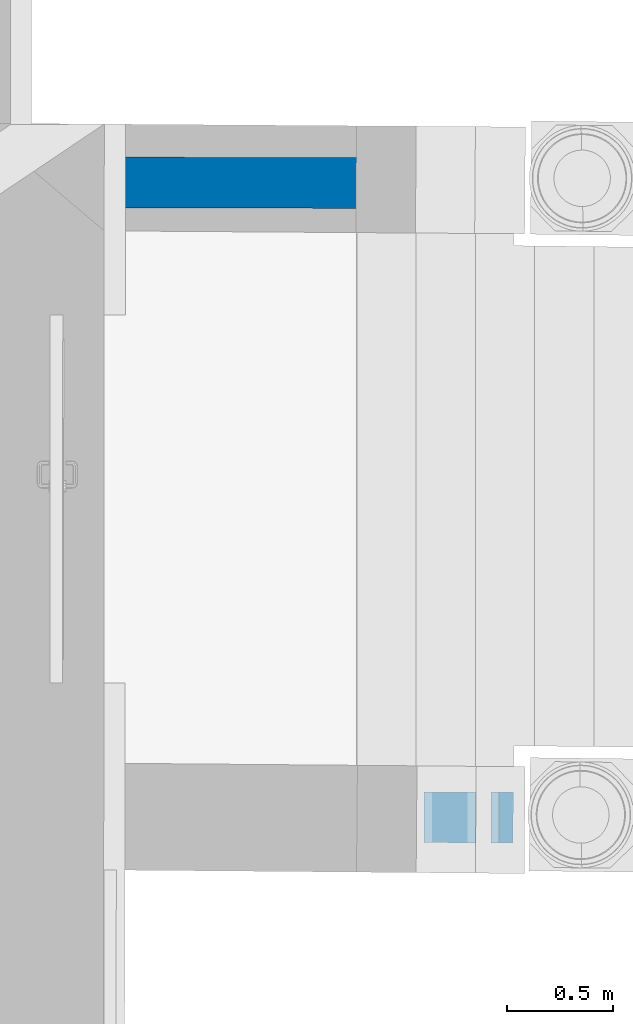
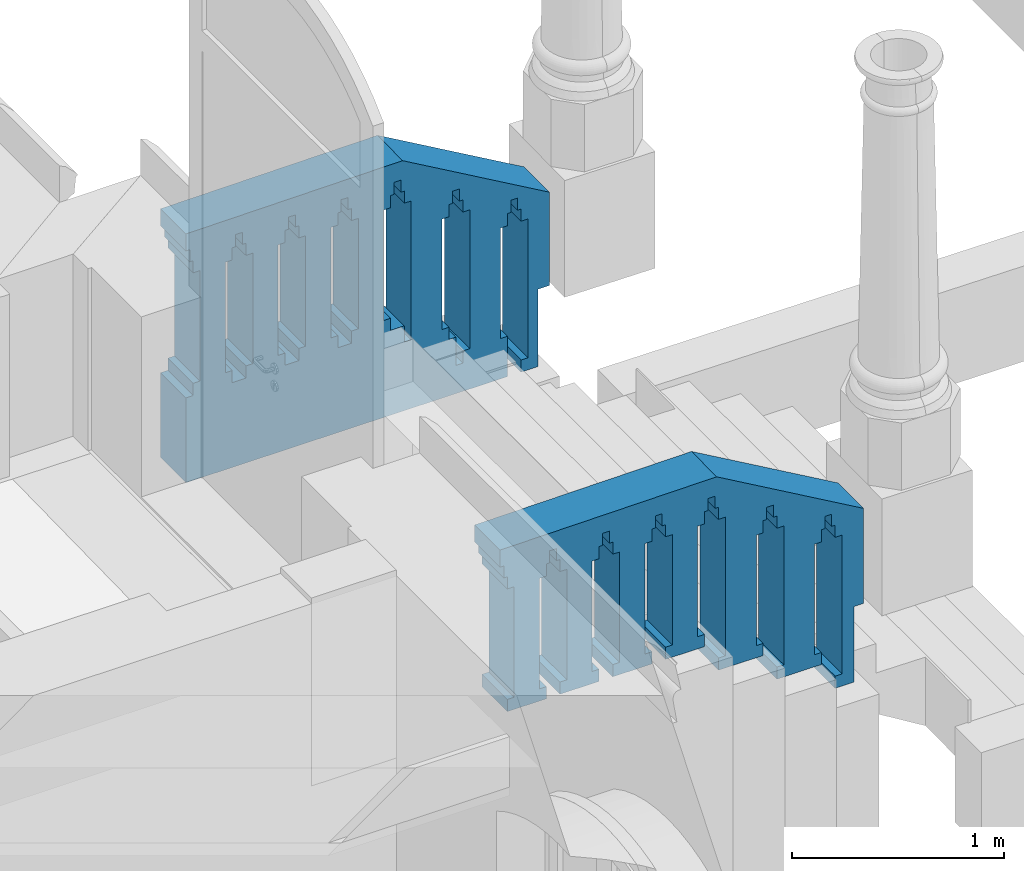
# One storey, part 107 of 196: 2 walls.
"""IFC2X3 building model written with IfcOpenShell, lengths in metres."""

from ifc_helpers import new_model, entity, si_unit, converted_unit, derived_unit, money_unit, direction, frame, origin_with_axes, place, context, subcontext, project, spatial, polyline, outline, extrude, boolean, faceted_brep, material, type_object, element, save


model = new_model("IFC2X3")

# Units and contexts
model_context = context("Model", 3, precision=1e-05, world=origin_with_axes(), true_north=direction((0.0, 1.0)))
body_context = subcontext(model_context, "Body", "Model", "MODEL_VIEW")
ifc_project = project(units=[si_unit("LENGTHUNIT", "METRE"), si_unit("AREAUNIT", "SQUARE_METRE"), si_unit("VOLUMEUNIT", "CUBIC_METRE"), converted_unit("PLANEANGLEUNIT", "DEGREE", entity("IfcPlaneAngleMeasure", 0.0174532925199), si_unit("PLANEANGLEUNIT", "RADIAN"), dimensions=[0, 0, 0, 0, 0, 0, 0]), money_unit("EUR"), converted_unit("TIMEUNIT", "Year", entity("IfcTimeMeasure", 31556926.0), si_unit("TIMEUNIT", "SECOND"), dimensions=[0, 0, 1, 0, 0, 0, 0]), si_unit("MASSUNIT", "GRAM", prefix="KILO"), si_unit("THERMODYNAMICTEMPERATUREUNIT", "DEGREE_CELSIUS"), si_unit("LUMINOUSINTENSITYUNIT", "LUMEN"), si_unit("ENERGYUNIT", "JOULE", prefix="MEGA"), derived_unit("THERMALCONDUCTANCEUNIT", [(si_unit("POWERUNIT", "WATT"), 1), (si_unit("LENGTHUNIT", "METRE"), -1), (si_unit("THERMODYNAMICTEMPERATUREUNIT", "KELVIN"), -1)]), derived_unit("SPECIFICHEATCAPACITYUNIT", [(si_unit("ENERGYUNIT", "JOULE"), 1), (si_unit("MASSUNIT", "GRAM", prefix="KILO"), -1), (si_unit("THERMODYNAMICTEMPERATUREUNIT", "KELVIN"), -1)]), derived_unit("MASSDENSITYUNIT", [(si_unit("MASSUNIT", "GRAM", prefix="KILO"), 1), (si_unit("VOLUMEUNIT", "CUBIC_METRE"), -1)])], contexts=[model_context])

# Site, building, storey
site_placement = place(None, origin_with_axes())
site = spatial("IfcSite", under=ifc_project, at=site_placement, Name="Gelände", CompositionType="ELEMENT")
building_placement = place(site_placement, origin_with_axes())
building = spatial("IfcBuilding", under=site, at=building_placement, Name="Gebäude", CompositionType="ELEMENT")
storey_placement = place(building_placement, frame((0.0, 0.0, -3.0), z_axis=(0.0, 0.0, 1.0), x_axis=(1.0, 0.0, 0.0)))
storey = spatial("IfcBuildingStorey", under=building, at=storey_placement, Name="KELLERGESCHOSS", CompositionType="ELEMENT", Elevation=-3.0)

# Walls
ifc_material = material(Name="05_ALLGEMEIN - TRAGENDE BAUTEILE")
wall_type = type_object("IfcWallType", Name="05_ALLGEMEIN - TRAGENDE BAUTEILE 240", PredefinedType="ELEMENTEDWALL")
wall_1_placement = place(storey_placement, frame((34.102527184, 16.6497051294, 1.251), z_axis=(0.0, 0.0, 1.0), x_axis=(-0.999999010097, 0.00140705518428, 0.0)))
element("IfcWall", 1, at=wall_1_placement, inside=storey, type_object=wall_type, material=ifc_material, Name="Wand-044", ObjectType="ELEMENTEDWALL", context=body_context, shape_type="CSG", body=[
    boolean("DIFFERENCE", boolean("DIFFERENCE", boolean("DIFFERENCE", extrude(outline(polyline([(0.0, 0.0), (1.98, 0.0), (1.98, 0.24), (0.0, 0.24), (0.0, 0.0)])), origin_with_axes(), (0.0, 0.0, 1.0), 2.73605348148), faceted_brep([(0.154338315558, 0.0, 0.939892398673), (0.154338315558, 0.0, 0.869892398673), (0.116838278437, 0.0, 0.869892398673), (0.116838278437, 0.0, 0.07), (0.154338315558, 0.0, 0.07), (0.154338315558, 0.0, 0.0), (1.98, 0.0, 0.0), (1.98, 0.0, 1.33589239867), (1.95938364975, 0.0, 1.33589239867), (1.95938364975, 0.0, 1.26589239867), (1.94063363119, 0.0, 1.26589239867), (1.94063363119, 0.0, 1.19589239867), (1.90313359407, 0.0, 1.19589239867), (1.90313359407, 0.0, 0.559), (1.94063363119, 0.0, 0.559), (1.94063363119, 0.0, 0.489), (1.72812856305, 0.0, 0.489), (1.72812856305, 0.0, 0.559), (1.76562860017, 0.0, 0.559), (1.76562860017, 0.0, 1.19589239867), (1.72812856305, 0.0, 1.19589239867), (1.72812856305, 0.0, 1.26589239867), (1.70937854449, 0.0, 1.26589239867), (1.70937854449, 0.0, 1.33589239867), (1.67187850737, 0.0, 1.33589239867), (1.67187850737, 0.0, 1.26589239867), (1.65312848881, 0.0, 1.26589239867), (1.65312848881, 0.0, 1.19589239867), (1.61562845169, 0.0, 1.19589239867), (1.61562845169, 0.0, 0.559), (1.65312848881, 0.0, 0.559), (1.65312848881, 0.0, 0.489), (1.44062342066, 0.0, 0.489), (1.44062342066, 0.0, 0.559), (1.47812345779, 0.0, 0.559), (1.47812345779, 0.0, 1.19589239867), (1.44062342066, 0.0, 1.19589239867), (1.44062342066, 0.0, 1.26589239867), (1.4218734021, 0.0, 1.26589239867), (1.4218734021, 0.0, 1.33589239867), (1.38437336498, 0.0, 1.33589239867), (1.38437336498, 0.0, 1.26589239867), (1.36562334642, 0.0, 1.26589239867), (1.36562334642, 0.0, 1.19589239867), (1.3281233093, 0.0, 1.19589239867), (1.3281233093, 0.0, 0.559), (1.36562334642, 0.0, 0.559), (1.36562334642, 0.0, 0.489), (1.15311827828, 0.0, 0.489), (1.15311827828, 0.0, 0.559), (1.1906183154, 0.0, 0.559), (1.1906183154, 0.0, 1.19589239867), (1.15311827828, 0.0, 1.19589239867), (1.15311827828, 0.0, 1.26589239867), (1.13436825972, 0.0, 1.26589239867), (1.13436825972, 0.0, 1.33589239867), (1.0968682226, 0.0, 1.33589239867), (1.0968682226, 0.0, 1.26589239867), (1.07811820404, 0.0, 1.26589239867), (1.07811820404, 0.0, 1.19589239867), (1.04061816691, 0.0, 1.19589239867), (1.04061816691, 0.0, 0.559), (1.07811820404, 0.0, 0.559), (1.07811820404, 0.0, 0.489), (0.865613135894, 0.0, 0.489), (0.865613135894, 0.0, 0.559), (0.903113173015, 0.0, 0.559), (0.903113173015, 0.0, 1.19589239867), (0.865613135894, 0.0, 1.19589239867), (0.865613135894, 0.0, 1.26589239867), (0.846863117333, 0.0, 1.26589239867), (0.846863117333, 0.0, 1.33589239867), (0.809363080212, 0.0, 1.33589239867), (0.809363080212, 0.0, 1.26589239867), (0.790613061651, 0.0, 1.26589239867), (0.790613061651, 0.0, 1.19589239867), (0.75311302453, 0.0, 1.19589239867), (0.75311302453, 0.0, 0.396), (0.787391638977, 0.0, 0.396), (0.787391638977, 0.0, 0.326), (0.54653174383, 0.0, 0.326), (0.54653174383, 0.0, 0.396), (0.584031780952, 0.0, 0.396), (0.584031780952, 0.0, 1.03289239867), (0.54653174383, 0.0, 1.03289239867), (0.54653174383, 0.0, 1.10289239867), (0.527781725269, 0.0, 1.10289239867), (0.527781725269, 0.0, 1.17289239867), (0.490281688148, 0.0, 1.17289239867), (0.490281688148, 0.0, 1.10289239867), (0.471531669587, 0.0, 1.10289239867), (0.471531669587, 0.0, 1.03289239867), (0.434031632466, 0.0, 1.03289239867), (0.434031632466, 0.0, 0.233), (0.471531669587, 0.0, 0.233), (0.471531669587, 0.0, 0.163), (0.229338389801, 0.0, 0.163), (0.229338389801, 0.0, 0.233), (0.266838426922, 0.0, 0.233), (0.266838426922, 0.0, 0.869892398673), (0.229338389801, 0.0, 0.869892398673), (0.229338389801, 0.0, 0.939892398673), (0.21058837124, 0.0, 0.939892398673), (0.21058837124, 0.0, 1.00989239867), (0.173088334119, 0.0, 1.00989239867), (0.173088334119, 0.0, 0.939892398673), (0.15400062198, 0.24, 0.939892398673), (0.15400062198, 0.24, 0.869892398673), (0.116500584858, 0.24, 0.869892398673), (0.116500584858, 0.24, 0.07), (0.15400062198, 0.24, 0.07), (0.15400062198, 0.24, 0.0), (1.98, 0.24, 0.0), (1.98, 0.24, 1.33589239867), (1.95904595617, 0.24, 1.33589239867), (1.95904595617, 0.24, 1.26589239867), (1.94029593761, 0.24, 1.26589239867), (1.94029593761, 0.24, 1.19589239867), (1.90279590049, 0.24, 1.19589239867), (1.90279590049, 0.24, 0.559), (1.94029593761, 0.24, 0.559), (1.94029593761, 0.24, 0.489), (1.72779086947, 0.24, 0.489), (1.72779086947, 0.24, 0.559), (1.76529090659, 0.24, 0.559), (1.76529090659, 0.24, 1.19589239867), (1.72779086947, 0.24, 1.19589239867), (1.72779086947, 0.24, 1.26589239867), (1.70904085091, 0.24, 1.26589239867), (1.70904085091, 0.24, 1.33589239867), (1.67154081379, 0.24, 1.33589239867), (1.67154081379, 0.24, 1.26589239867), (1.65279079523, 0.24, 1.26589239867), (1.65279079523, 0.24, 1.19589239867), (1.61529075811, 0.24, 1.19589239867), (1.61529075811, 0.24, 0.559), (1.65279079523, 0.24, 0.559), (1.65279079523, 0.24, 0.489), (1.44028572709, 0.24, 0.489), (1.44028572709, 0.24, 0.559), (1.47778576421, 0.24, 0.559), (1.47778576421, 0.24, 1.19589239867), (1.44028572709, 0.24, 1.19589239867), (1.44028572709, 0.24, 1.26589239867), (1.42153570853, 0.24, 1.26589239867), (1.42153570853, 0.24, 1.33589239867), (1.3840356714, 0.24, 1.33589239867), (1.3840356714, 0.24, 1.26589239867), (1.36528565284, 0.24, 1.26589239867), (1.36528565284, 0.24, 1.19589239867), (1.32778561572, 0.24, 1.19589239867), (1.32778561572, 0.24, 0.559), (1.36528565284, 0.24, 0.559), (1.36528565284, 0.24, 0.489), (1.1527805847, 0.24, 0.489), (1.1527805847, 0.24, 0.559), (1.19028062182, 0.24, 0.559), (1.19028062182, 0.24, 1.19589239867), (1.1527805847, 0.24, 1.19589239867), (1.1527805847, 0.24, 1.26589239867), (1.13403056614, 0.24, 1.26589239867), (1.13403056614, 0.24, 1.33589239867), (1.09653052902, 0.24, 1.33589239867), (1.09653052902, 0.24, 1.26589239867), (1.07778051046, 0.24, 1.26589239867), (1.07778051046, 0.24, 1.19589239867), (1.04028047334, 0.24, 1.19589239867), (1.04028047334, 0.24, 0.559), (1.07778051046, 0.24, 0.559), (1.07778051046, 0.24, 0.489), (0.865275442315, 0.24, 0.489), (0.865275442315, 0.24, 0.559), (0.902775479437, 0.24, 0.559), (0.902775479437, 0.24, 1.19589239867), (0.865275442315, 0.24, 1.19589239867), (0.865275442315, 0.24, 1.26589239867), (0.846525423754, 0.24, 1.26589239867), (0.846525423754, 0.24, 1.33589239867), (0.809025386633, 0.24, 1.33589239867), (0.809025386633, 0.24, 1.26589239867), (0.790275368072, 0.24, 1.26589239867), (0.790275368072, 0.24, 1.19589239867), (0.752775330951, 0.24, 1.19589239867), (0.752775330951, 0.24, 0.396), (0.789092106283, 0.24, 0.396), (0.789092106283, 0.24, 0.326), (0.546194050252, 0.24, 0.326), (0.546194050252, 0.24, 0.396), (0.583694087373, 0.24, 0.396), (0.583694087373, 0.24, 1.03289239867), (0.546194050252, 0.24, 1.03289239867), (0.546194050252, 0.24, 1.10289239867), (0.527444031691, 0.24, 1.10289239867), (0.527444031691, 0.24, 1.17289239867), (0.48994399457, 0.24, 1.17289239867), (0.48994399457, 0.24, 1.10289239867), (0.471193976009, 0.24, 1.10289239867), (0.471193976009, 0.24, 1.03289239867), (0.433693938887, 0.24, 1.03289239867), (0.433693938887, 0.24, 0.233), (0.471193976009, 0.24, 0.233), (0.471193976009, 0.24, 0.163), (0.229000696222, 0.24, 0.163), (0.229000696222, 0.24, 0.233), (0.266500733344, 0.24, 0.233), (0.266500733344, 0.24, 0.869892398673), (0.229000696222, 0.24, 0.869892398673), (0.229000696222, 0.24, 0.939892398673), (0.210250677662, 0.24, 0.939892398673), (0.210250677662, 0.24, 1.00989239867), (0.17275064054, 0.24, 1.00989239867), (0.17275064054, 0.24, 0.939892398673)], [[[0, 1, 2, 3, 4, 5, 6, 7, 8, 9, 10, 11, 12, 13, 14, 15, 16, 17, 18, 19, 20, 21, 22, 23, 24, 25, 26, 27, 28, 29, 30, 31, 32, 33, 34, 35, 36, 37, 38, 39, 40, 41, 42, 43, 44, 45, 46, 47, 48, 49, 50, 51, 52, 53, 54, 55, 56, 57, 58, 59, 60, 61, 62, 63, 64, 65, 66, 67, 68, 69, 70, 71, 72, 73, 74, 75, 76, 77, 78, 79, 80, 81, 82, 83, 84, 85, 86, 87, 88, 89, 90, 91, 92, 93, 94, 95, 96, 97, 98, 99, 100, 101, 102, 103, 104, 105]], [[1, 0, 106, 107]], [[2, 1, 107, 108]], [[3, 2, 108, 109]], [[4, 3, 109, 110]], [[5, 4, 110, 111]], [[5, 111, 112, 6]], [[113, 7, 6, 112]], [[8, 7, 113, 114]], [[9, 8, 114, 115]], [[10, 9, 115, 116]], [[11, 10, 116, 117]], [[12, 11, 117, 118]], [[13, 12, 118, 119]], [[14, 13, 119, 120]], [[15, 14, 120, 121]], [[16, 15, 121, 122]], [[17, 16, 122, 123]], [[18, 17, 123, 124]], [[19, 18, 124, 125]], [[20, 19, 125, 126]], [[21, 20, 126, 127]], [[22, 21, 127, 128]], [[23, 22, 128, 129]], [[24, 23, 129, 130]], [[25, 24, 130, 131]], [[26, 25, 131, 132]], [[27, 26, 132, 133]], [[28, 27, 133, 134]], [[29, 28, 134, 135]], [[30, 29, 135, 136]], [[31, 30, 136, 137]], [[32, 31, 137, 138]], [[33, 32, 138, 139]], [[34, 33, 139, 140]], [[35, 34, 140, 141]], [[36, 35, 141, 142]], [[37, 36, 142, 143]], [[38, 37, 143, 144]], [[39, 38, 144, 145]], [[40, 39, 145, 146]], [[41, 40, 146, 147]], [[42, 41, 147, 148]], [[43, 42, 148, 149]], [[44, 43, 149, 150]], [[45, 44, 150, 151]], [[46, 45, 151, 152]], [[47, 46, 152, 153]], [[48, 47, 153, 154]], [[49, 48, 154, 155]], [[50, 49, 155, 156]], [[51, 50, 156, 157]], [[52, 51, 157, 158]], [[53, 52, 158, 159]], [[54, 53, 159, 160]], [[55, 54, 160, 161]], [[56, 55, 161, 162]], [[57, 56, 162, 163]], [[58, 57, 163, 164]], [[59, 58, 164, 165]], [[60, 59, 165, 166]], [[61, 60, 166, 167]], [[62, 61, 167, 168]], [[63, 62, 168, 169]], [[64, 63, 169, 170]], [[65, 64, 170, 171]], [[66, 65, 171, 172]], [[67, 66, 172, 173]], [[68, 67, 173, 174]], [[69, 68, 174, 175]], [[70, 69, 175, 176]], [[71, 70, 176, 177]], [[72, 71, 177, 178]], [[73, 72, 178, 179]], [[74, 73, 179, 180]], [[75, 74, 180, 181]], [[76, 75, 181, 182]], [[77, 76, 182, 183]], [[78, 77, 183, 184]], [[79, 78, 184, 185]], [[80, 79, 185, 186]], [[81, 80, 186, 187]], [[82, 81, 187, 188]], [[83, 82, 188, 189]], [[84, 83, 189, 190]], [[85, 84, 190, 191]], [[86, 85, 191, 192]], [[87, 86, 192, 193]], [[88, 87, 193, 194]], [[89, 88, 194, 195]], [[90, 89, 195, 196]], [[91, 90, 196, 197]], [[92, 91, 197, 198]], [[93, 92, 198, 199]], [[94, 93, 199, 200]], [[95, 94, 200, 201]], [[96, 95, 201, 202]], [[97, 96, 202, 203]], [[98, 97, 203, 204]], [[99, 98, 204, 205]], [[100, 99, 205, 206]], [[101, 100, 206, 207]], [[102, 101, 207, 208]], [[103, 102, 208, 209]], [[104, 103, 209, 210]], [[105, 104, 210, 211]], [[0, 105, 211, 106]], [[114, 113, 112, 111, 110, 109, 108, 107, 106, 211, 210, 209, 208, 207, 206, 205, 204, 203, 202, 201, 200, 199, 198, 197, 196, 195, 194, 193, 192, 191, 190, 189, 188, 187, 186, 185, 184, 183, 182, 181, 180, 179, 178, 177, 176, 175, 174, 173, 172, 171, 170, 169, 168, 167, 166, 165, 164, 163, 162, 161, 160, 159, 158, 157, 156, 155, 154, 153, 152, 151, 150, 149, 148, 147, 146, 145, 144, 143, 142, 141, 140, 139, 138, 137, 136, 135, 134, 133, 132, 131, 130, 129, 128, 127, 126, 125, 124, 123, 122, 121, 120, 119, 118, 117, 116, 115]]])), faceted_brep([(0.0491850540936, 0.0, 0.0), (0.0491850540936, 0.0, 0.435117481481), (0.0, 0.0, 0.435117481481), (0.0, 0.0, 0.0), (0.0517145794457, 0.24, 0.0), (0.0517145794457, 0.24, 0.435117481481), (0.0, 0.24, 0.435117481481), (0.0, 0.24, 0.0)], [[[0, 1, 2, 3]], [[1, 0, 4, 5]], [[6, 2, 1, 5]], [[2, 6, 7, 3]], [[4, 0, 3, 7]], [[5, 4, 7, 6]]])), faceted_brep([(0.0, 0.24, 0.983406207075), (0.0, 0.0, 0.984512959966), (0.0, 0.0, 2.73605348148), (0.0, 0.24, 2.73605348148), (0.79797609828, 0.0, 1.4445702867), (0.799895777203, 0.24, 1.4445702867), (1.97543844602, 0.0, 1.43402508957), (1.98, 0.0, 1.43300071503), (1.98, 0.0, 2.73605348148), (1.98, 0.24, 2.73605348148), (1.98, 0.24, 1.43296598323), (1.97519762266, 0.24, 1.43404443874)], [[[0, 1, 2, 3]], [[4, 1, 0, 5]], [[6, 7, 8, 2, 1, 4]], [[3, 2, 8, 9]], [[5, 0, 3, 9, 10, 11]], [[6, 4, 5, 11]], [[7, 6, 11, 10]], [[7, 10, 9, 8]]])),
])
wall_2_placement = place(storey_placement, frame((34.1195395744, 19.6452615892, 1.251), z_axis=(0.0, 0.0, 1.0), x_axis=(-0.999999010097, 0.00140705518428, 0.0)))
solid = boolean("DIFFERENCE", boolean("DIFFERENCE", boolean("DIFFERENCE", boolean("DIFFERENCE", boolean("DIFFERENCE", boolean("DIFFERENCE", boolean("DIFFERENCE", boolean("DIFFERENCE", extrude(outline(polyline([(0.0, 0.0), (1.98, 0.0), (1.98, 0.24), (0.0, 0.24), (0.0, 0.0)])), origin_with_axes(), (0.0, 0.0, 1.0), 2.73605348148), faceted_brep([(1.94063363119, 0.0, 1.26589239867), (1.94063363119, 0.0, 1.19589239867), (1.90313359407, 0.0, 1.19589239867), (1.90313359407, 0.0, 0.559), (1.94063363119, 0.0, 0.559), (1.94063363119, 0.0, 0.489), (1.98, 0.0, 0.489), (1.98, 0.0, 1.33589239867), (1.95938364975, 0.0, 1.33589239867), (1.95938364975, 0.0, 1.26589239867), (1.94029593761, 0.24, 1.26589239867), (1.94029593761, 0.24, 1.19589239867), (1.90279590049, 0.24, 1.19589239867), (1.90279590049, 0.24, 0.559), (1.94029593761, 0.24, 0.559), (1.94029593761, 0.24, 0.489), (1.98, 0.24, 0.489), (1.98, 0.24, 1.33589239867), (1.95904595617, 0.24, 1.33589239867), (1.95904595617, 0.24, 1.26589239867)], [[[0, 1, 2, 3, 4, 5, 6, 7, 8, 9]], [[1, 0, 10, 11]], [[2, 1, 11, 12]], [[3, 2, 12, 13]], [[4, 3, 13, 14]], [[5, 4, 14, 15]], [[6, 5, 15, 16]], [[17, 7, 6, 16]], [[8, 7, 17, 18]], [[9, 8, 18, 19]], [[0, 9, 19, 10]], [[18, 17, 16, 15, 14, 13, 12, 11, 10, 19]]])), faceted_brep([(1.65279079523, 0.24, 0.559), (1.61529075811, 0.24, 0.559), (1.61529075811, 0.24, 1.19589239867), (1.65279079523, 0.24, 1.19589239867), (1.65279079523, 0.24, 1.26589239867), (1.67154081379, 0.24, 1.26589239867), (1.67154081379, 0.24, 1.33589239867), (1.70904085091, 0.24, 1.33589239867), (1.70904085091, 0.24, 1.26589239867), (1.72779086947, 0.24, 1.26589239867), (1.72779086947, 0.24, 1.19589239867), (1.76529090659, 0.24, 1.19589239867), (1.76529090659, 0.24, 0.559), (1.72779086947, 0.24, 0.559), (1.72779086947, 0.24, 0.489), (1.65279079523, 0.24, 0.489), (1.65312848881, 0.0, 0.559), (1.61562845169, 0.0, 0.559), (1.61562845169, 0.0, 1.19589239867), (1.65312848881, 0.0, 1.19589239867), (1.65312848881, 0.0, 1.26589239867), (1.67187850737, 0.0, 1.26589239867), (1.67187850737, 0.0, 1.33589239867), (1.70937854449, 0.0, 1.33589239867), (1.70937854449, 0.0, 1.26589239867), (1.72812856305, 0.0, 1.26589239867), (1.72812856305, 0.0, 1.19589239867), (1.76562860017, 0.0, 1.19589239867), (1.76562860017, 0.0, 0.559), (1.72812856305, 0.0, 0.559), (1.72812856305, 0.0, 0.489), (1.65312848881, 0.0, 0.489)], [[[0, 1, 2, 3, 4, 5, 6, 7, 8, 9, 10, 11, 12, 13, 14, 15]], [[16, 17, 1, 0]], [[17, 18, 2, 1]], [[18, 19, 3, 2]], [[19, 20, 4, 3]], [[20, 21, 5, 4]], [[21, 22, 6, 5]], [[22, 23, 7, 6]], [[23, 24, 8, 7]], [[24, 25, 9, 8]], [[25, 26, 10, 9]], [[26, 27, 11, 10]], [[27, 28, 12, 11]], [[28, 29, 13, 12]], [[29, 30, 14, 13]], [[30, 31, 15, 14]], [[31, 16, 0, 15]], [[20, 19, 18, 17, 16, 31, 30, 29, 28, 27, 26, 25, 24, 23, 22, 21]]])), faceted_brep([(1.36528565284, 0.24, 0.559), (1.32778561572, 0.24, 0.559), (1.32778561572, 0.24, 1.19589239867), (1.36528565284, 0.24, 1.19589239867), (1.36528565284, 0.24, 1.26589239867), (1.3840356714, 0.24, 1.26589239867), (1.3840356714, 0.24, 1.33589239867), (1.42153570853, 0.24, 1.33589239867), (1.42153570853, 0.24, 1.26589239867), (1.44028572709, 0.24, 1.26589239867), (1.44028572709, 0.24, 1.19589239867), (1.47778576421, 0.24, 1.19589239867), (1.47778576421, 0.24, 0.559), (1.44028572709, 0.24, 0.559), (1.44028572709, 0.24, 0.489), (1.36528565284, 0.24, 0.489), (1.36562334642, 0.0, 0.559), (1.3281233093, 0.0, 0.559), (1.3281233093, 0.0, 1.19589239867), (1.36562334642, 0.0, 1.19589239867), (1.36562334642, 0.0, 1.26589239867), (1.38437336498, 0.0, 1.26589239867), (1.38437336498, 0.0, 1.33589239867), (1.4218734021, 0.0, 1.33589239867), (1.4218734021, 0.0, 1.26589239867), (1.44062342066, 0.0, 1.26589239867), (1.44062342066, 0.0, 1.19589239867), (1.47812345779, 0.0, 1.19589239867), (1.47812345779, 0.0, 0.559), (1.44062342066, 0.0, 0.559), (1.44062342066, 0.0, 0.489), (1.36562334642, 0.0, 0.489)], [[[0, 1, 2, 3, 4, 5, 6, 7, 8, 9, 10, 11, 12, 13, 14, 15]], [[16, 17, 1, 0]], [[17, 18, 2, 1]], [[18, 19, 3, 2]], [[19, 20, 4, 3]], [[20, 21, 5, 4]], [[21, 22, 6, 5]], [[22, 23, 7, 6]], [[23, 24, 8, 7]], [[24, 25, 9, 8]], [[25, 26, 10, 9]], [[26, 27, 11, 10]], [[27, 28, 12, 11]], [[28, 29, 13, 12]], [[29, 30, 14, 13]], [[30, 31, 15, 14]], [[31, 16, 0, 15]], [[20, 19, 18, 17, 16, 31, 30, 29, 28, 27, 26, 25, 24, 23, 22, 21]]])), faceted_brep([(1.07778051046, 0.24, 0.559), (1.04028047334, 0.24, 0.559), (1.04028047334, 0.24, 1.19589239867), (1.07778051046, 0.24, 1.19589239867), (1.07778051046, 0.24, 1.26589239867), (1.09653052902, 0.24, 1.26589239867), (1.09653052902, 0.24, 1.33589239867), (1.13403056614, 0.24, 1.33589239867), (1.13403056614, 0.24, 1.26589239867), (1.1527805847, 0.24, 1.26589239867), (1.1527805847, 0.24, 1.19589239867), (1.19028062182, 0.24, 1.19589239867), (1.19028062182, 0.24, 0.559), (1.1527805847, 0.24, 0.559), (1.1527805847, 0.24, 0.489), (1.07778051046, 0.24, 0.489), (1.07811820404, 0.0, 0.559), (1.04061816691, 0.0, 0.559), (1.04061816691, 0.0, 1.19589239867), (1.07811820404, 0.0, 1.19589239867), (1.07811820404, 0.0, 1.26589239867), (1.0968682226, 0.0, 1.26589239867), (1.0968682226, 0.0, 1.33589239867), (1.13436825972, 0.0, 1.33589239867), (1.13436825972, 0.0, 1.26589239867), (1.15311827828, 0.0, 1.26589239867), (1.15311827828, 0.0, 1.19589239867), (1.1906183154, 0.0, 1.19589239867), (1.1906183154, 0.0, 0.559), (1.15311827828, 0.0, 0.559), (1.15311827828, 0.0, 0.489), (1.07811820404, 0.0, 0.489)], [[[0, 1, 2, 3, 4, 5, 6, 7, 8, 9, 10, 11, 12, 13, 14, 15]], [[16, 17, 1, 0]], [[17, 18, 2, 1]], [[18, 19, 3, 2]], [[19, 20, 4, 3]], [[20, 21, 5, 4]], [[21, 22, 6, 5]], [[22, 23, 7, 6]], [[23, 24, 8, 7]], [[24, 25, 9, 8]], [[25, 26, 10, 9]], [[26, 27, 11, 10]], [[27, 28, 12, 11]], [[28, 29, 13, 12]], [[29, 30, 14, 13]], [[30, 31, 15, 14]], [[31, 16, 0, 15]], [[20, 19, 18, 17, 16, 31, 30, 29, 28, 27, 26, 25, 24, 23, 22, 21]]])), faceted_brep([(0.790275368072, 0.24, 0.396), (0.752775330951, 0.24, 0.396), (0.752775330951, 0.24, 1.19589239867), (0.790275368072, 0.24, 1.19589239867), (0.790275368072, 0.24, 1.26589239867), (0.809025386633, 0.24, 1.26589239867), (0.809025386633, 0.24, 1.33589239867), (0.846525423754, 0.24, 1.33589239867), (0.846525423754, 0.24, 1.26589239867), (0.865275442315, 0.24, 1.26589239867), (0.865275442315, 0.24, 1.19589239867), (0.902775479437, 0.24, 1.19589239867), (0.902775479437, 0.24, 0.559), (0.865275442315, 0.24, 0.559), (0.865275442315, 0.24, 0.489), (0.790275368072, 0.24, 0.489), (0.790613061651, 0.0, 0.396), (0.75311302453, 0.0, 0.396), (0.75311302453, 0.0, 1.19589239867), (0.790613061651, 0.0, 1.19589239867), (0.790613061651, 0.0, 1.26589239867), (0.809363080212, 0.0, 1.26589239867), (0.809363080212, 0.0, 1.33589239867), (0.846863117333, 0.0, 1.33589239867), (0.846863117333, 0.0, 1.26589239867), (0.865613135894, 0.0, 1.26589239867), (0.865613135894, 0.0, 1.19589239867), (0.903113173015, 0.0, 1.19589239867), (0.903113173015, 0.0, 0.559), (0.865613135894, 0.0, 0.559), (0.865613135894, 0.0, 0.489), (0.790613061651, 0.0, 0.489)], [[[0, 1, 2, 3, 4, 5, 6, 7, 8, 9, 10, 11, 12, 13, 14, 15]], [[16, 17, 1, 0]], [[17, 18, 2, 1]], [[18, 19, 3, 2]], [[19, 20, 4, 3]], [[20, 21, 5, 4]], [[21, 22, 6, 5]], [[22, 23, 7, 6]], [[23, 24, 8, 7]], [[24, 25, 9, 8]], [[25, 26, 10, 9]], [[26, 27, 11, 10]], [[27, 28, 12, 11]], [[28, 29, 13, 12]], [[29, 30, 14, 13]], [[30, 31, 15, 14]], [[31, 16, 0, 15]], [[20, 19, 18, 17, 16, 31, 30, 29, 28, 27, 26, 25, 24, 23, 22, 21]]])), faceted_brep([(0.471193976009, 0.24, 0.233), (0.433693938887, 0.24, 0.233), (0.433693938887, 0.24, 1.03289239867), (0.471193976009, 0.24, 1.03289239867), (0.471193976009, 0.24, 1.10289239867), (0.48994399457, 0.24, 1.10289239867), (0.48994399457, 0.24, 1.17289239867), (0.527444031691, 0.24, 1.17289239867), (0.527444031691, 0.24, 1.10289239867), (0.546194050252, 0.24, 1.10289239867), (0.546194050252, 0.24, 1.03289239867), (0.583694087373, 0.24, 1.03289239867), (0.583694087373, 0.24, 0.396), (0.546194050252, 0.24, 0.396), (0.546194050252, 0.24, 0.326), (0.50869401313, 0.24, 0.326), (0.50869401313, 0.24, 0.163), (0.471193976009, 0.24, 0.163), (0.471531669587, 0.0, 0.233), (0.434031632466, 0.0, 0.233), (0.434031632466, 0.0, 1.03289239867), (0.471531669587, 0.0, 1.03289239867), (0.471531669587, 0.0, 1.10289239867), (0.490281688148, 0.0, 1.10289239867), (0.490281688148, 0.0, 1.17289239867), (0.527781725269, 0.0, 1.17289239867), (0.527781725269, 0.0, 1.10289239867), (0.54653174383, 0.0, 1.10289239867), (0.54653174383, 0.0, 1.03289239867), (0.584031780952, 0.0, 1.03289239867), (0.584031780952, 0.0, 0.396), (0.54653174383, 0.0, 0.396), (0.54653174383, 0.0, 0.326), (0.509031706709, 0.0, 0.326), (0.509031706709, 0.0, 0.163), (0.471531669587, 0.0, 0.163)], [[[0, 1, 2, 3, 4, 5, 6, 7, 8, 9, 10, 11, 12, 13, 14, 15, 16, 17]], [[18, 19, 1, 0]], [[19, 20, 2, 1]], [[20, 21, 3, 2]], [[21, 22, 4, 3]], [[22, 23, 5, 4]], [[23, 24, 6, 5]], [[24, 25, 7, 6]], [[25, 26, 8, 7]], [[26, 27, 9, 8]], [[27, 28, 10, 9]], [[28, 29, 11, 10]], [[29, 30, 12, 11]], [[30, 31, 13, 12]], [[31, 32, 14, 13]], [[32, 33, 15, 14]], [[33, 34, 16, 15]], [[34, 35, 17, 16]], [[35, 18, 0, 17]], [[22, 21, 20, 19, 18, 35, 34, 33, 32, 31, 30, 29, 28, 27, 26, 25, 24, 23]]])), faceted_brep([(0.154338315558, 0.0, 0.939892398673), (0.154338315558, 0.0, 0.869892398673), (0.116838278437, 0.0, 0.869892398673), (0.116838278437, 0.0, 0.07), (0.154338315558, 0.0, 0.07), (0.154338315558, 0.0, 0.0), (0.229338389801, 0.0, 0.0), (0.229338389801, 0.0, 0.233), (0.266838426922, 0.0, 0.233), (0.266838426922, 0.0, 0.869892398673), (0.229338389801, 0.0, 0.869892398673), (0.229338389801, 0.0, 0.939892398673), (0.21058837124, 0.0, 0.939892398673), (0.21058837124, 0.0, 1.00989239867), (0.173088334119, 0.0, 1.00989239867), (0.173088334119, 0.0, 0.939892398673), (0.15400062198, 0.24, 0.939892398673), (0.15400062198, 0.24, 0.869892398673), (0.116500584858, 0.24, 0.869892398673), (0.116500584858, 0.24, 0.07), (0.15400062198, 0.24, 0.07), (0.15400062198, 0.24, 0.0), (0.229000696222, 0.24, 0.0), (0.229000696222, 0.24, 0.233), (0.266500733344, 0.24, 0.233), (0.266500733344, 0.24, 0.869892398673), (0.229000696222, 0.24, 0.869892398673), (0.229000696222, 0.24, 0.939892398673), (0.210250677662, 0.24, 0.939892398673), (0.210250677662, 0.24, 1.00989239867), (0.17275064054, 0.24, 1.00989239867), (0.17275064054, 0.24, 0.939892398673)], [[[0, 1, 2, 3, 4, 5, 6, 7, 8, 9, 10, 11, 12, 13, 14, 15]], [[1, 0, 16, 17]], [[2, 1, 17, 18]], [[3, 2, 18, 19]], [[4, 3, 19, 20]], [[5, 4, 20, 21]], [[22, 6, 5, 21]], [[7, 6, 22, 23]], [[8, 7, 23, 24]], [[9, 8, 24, 25]], [[10, 9, 25, 26]], [[11, 10, 26, 27]], [[12, 11, 27, 28]], [[13, 12, 28, 29]], [[14, 13, 29, 30]], [[15, 14, 30, 31]], [[0, 15, 31, 16]], [[23, 22, 21, 20, 19, 18, 17, 16, 31, 30, 29, 28, 27, 26, 25, 24]]])), faceted_brep([(0.0598790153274, 0.0, 0.0), (0.0598790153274, 0.0, 0.445651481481), (0.0, 0.0, 0.445651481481), (0.0, 0.0, 0.0), (0.0624085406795, 0.24, 0.0), (0.0624085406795, 0.24, 0.445651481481), (0.0, 0.24, 0.445651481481), (0.0, 0.24, 0.0)], [[[0, 1, 2, 3]], [[1, 0, 4, 5]], [[6, 2, 1, 5]], [[2, 6, 7, 3]], [[4, 0, 3, 7]], [[5, 4, 7, 6]]]))
element("IfcWall", 2, at=wall_2_placement, inside=storey, type_object=wall_type, material=ifc_material, Name="Wand-044", ObjectType="ELEMENTEDWALL", context=body_context, shape_type="CSG", body=[
    boolean("DIFFERENCE", solid, faceted_brep([(0.0, 0.24, 0.983406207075), (0.0, 0.0, 0.984512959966), (0.0, 0.0, 2.73605348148), (0.0, 0.24, 2.73605348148), (0.79797609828, 0.0, 1.4445702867), (0.799895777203, 0.24, 1.4445702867), (1.98, 0.0, 1.4339842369), (1.98, 0.0, 2.73605348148), (1.98, 0.24, 2.73605348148), (1.98, 0.24, 1.43400142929)], [[[0, 1, 2, 3]], [[4, 1, 0, 5]], [[4, 6, 7, 2, 1]], [[3, 2, 7, 8]], [[5, 0, 3, 8, 9]], [[6, 4, 5, 9]], [[6, 9, 8, 7]]])),
])

save(model, "model.ifc")
